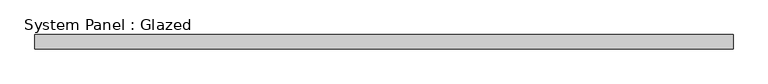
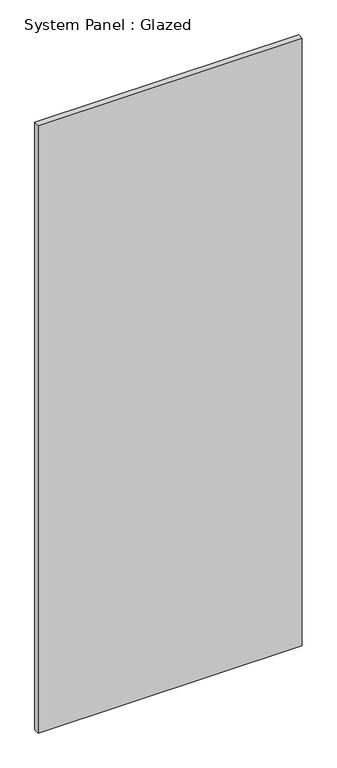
"""IFC4 building model written with IfcOpenShell, lengths in millimetres: plate geometry, System Panel : Glazed."""

import ifcopenshell
import ifcopenshell.guid

model = None  # the IFC model being written
_history = None  # IfcOwnerHistory: only IFC2X3 demands one
_inside = {}  # id of a spatial element -> (the spatial element, [elements in it])
_under = {}  # id of a project, library or spatial element -> (it, [spatial elements below it])
_declared = {}  # id of a project -> (the project, [libraries it declares])
_typed = {}  # id of a type object -> (the type object, [elements of that type])
_made_of = {}  # id of a material, layer set ... -> (it, [elements and type objects made of it])


def new_model(schema):
    """Start an empty IFC model of exactly this schema.

    Asked for "IFC4X3", IfcOpenShell would pick the latest addendum, in which some entities
    have other attributes; the version numbers below select the first issue.
    IFC2X3 requires an IfcOwnerHistory on every rooted entity: one is made here for all.
    """
    global model, _history
    if schema == "IFC4X3":
        model = ifcopenshell.file(schema_version=(4, 3, 0, 0))
    else:
        model = ifcopenshell.file(schema=schema)
    _inside.clear()
    _under.clear()
    _declared.clear()
    _typed.clear()
    _made_of.clear()
    _history = None
    if model.schema == "IFC2X3":
        org = make("IfcOrganization", Name="unknown")
        user = make(
            "IfcPersonAndOrganization",
            ThePerson=make("IfcPerson", FamilyName="unknown"),
            TheOrganization=org,
        )
        app = make(
            "IfcApplication",
            ApplicationDeveloper=org,
            Version="unknown",
            ApplicationFullName="unknown",
            ApplicationIdentifier="unknown",
        )
        _history = make(
            "IfcOwnerHistory",
            OwningUser=user,
            OwningApplication=app,
            ChangeAction="ADDED",
            CreationDate=0,
        )
    return model


def make(cls, **values):
    """One entity of the class cls with the attributes given. An attribute that is None is left unset."""
    return model.create_entity(
        cls, **{name: value for name, value in values.items() if value is not None}
    )


def rooted(cls, **values):
    """An entity with a GlobalId (a new one), such as an element, a storey or a relation."""
    return make(cls, GlobalId=ifcopenshell.guid.new(), OwnerHistory=_history, **values)


def si_unit(unit_type, name, prefix=None):
    """IfcSIUnit, for example si_unit("LENGTHUNIT", "METRE", prefix="MILLI")."""
    return make("IfcSIUnit", UnitType=unit_type, Prefix=prefix, Name=name)


def assignment(units):
    """IfcUnitAssignment: the units of a project."""
    return None if units is None else make("IfcUnitAssignment", Units=units)


def point(xyz):
    """IfcCartesianPoint."""
    return None if xyz is None else make("IfcCartesianPoint", Coordinates=xyz)


def direction(xyz):
    """IfcDirection."""
    return None if xyz is None else make("IfcDirection", DirectionRatios=xyz)


def frame(location, z_axis=None, x_axis=None):
    """IfcAxis2Placement3D, a coordinate frame: its origin and axes. An axis left out is left unset."""
    return make(
        "IfcAxis2Placement3D",
        Location=point(location),
        Axis=direction(z_axis),
        RefDirection=direction(x_axis),
    )


def origin():
    """The frame at (0, 0, 0) with its axes left unset."""
    return frame((0.0, 0.0, 0.0))


def origin_with_axes():
    """The frame at (0, 0, 0) with the z axis (0, 0, 1) and the x axis (1, 0, 0) written out."""
    return frame((0.0, 0.0, 0.0), z_axis=(0.0, 0.0, 1.0), x_axis=(1.0, 0.0, 0.0))


def place(relative_to, where):
    """IfcLocalPlacement: puts the frame where relative to a parent placement (None: the world)."""
    return make(
        "IfcLocalPlacement", PlacementRelTo=relative_to, RelativePlacement=where
    )


def context(
    kind, dimensions, precision=None, world=None, true_north=None, identifier=None
):
    """IfcGeometricRepresentationContext, for example the 3D "Model" context."""
    return make(
        "IfcGeometricRepresentationContext",
        ContextIdentifier=identifier,
        ContextType=kind,
        CoordinateSpaceDimension=dimensions,
        Precision=precision,
        WorldCoordinateSystem=world,
        TrueNorth=true_north,
    )


def project(units=None, contexts=None):
    """IfcProject with its units and contexts."""
    return rooted(
        "IfcProject",
        Name="project",
        RepresentationContexts=contexts,
        UnitsInContext=assignment(units),
    )


def spatial(cls, under=None, at=None, **own):
    """A site, building, storey or space (cls), placed at a placement, below another one or the project."""
    s = rooted(cls, ObjectPlacement=at, **own)
    if under is not None:
        _under.setdefault(under.id(), (under, []))[1].append(s)
    return s


def polyline(points):
    """IfcPolyline through the points."""
    return make("IfcPolyline", Points=[point(p) for p in points])


def outline(outer, holes=None, kind="AREA"):
    """IfcArbitraryClosedProfileDef: a profile drawn as a closed curve; with holes, ...WithVoids."""
    if holes is None:
        return make("IfcArbitraryClosedProfileDef", ProfileType=kind, OuterCurve=outer)
    return make(
        "IfcArbitraryProfileDefWithVoids",
        ProfileType=kind,
        OuterCurve=outer,
        InnerCurves=holes,
    )


def extrude(swept, where, along, depth):
    """IfcExtrudedAreaSolid: the profile swept, set in the frame where, extruded along a direction by depth."""
    return make(
        "IfcExtrudedAreaSolid",
        SweptArea=swept,
        Position=where,
        ExtrudedDirection=direction(along),
        Depth=depth,
    )


def shape(context_of_items, identifier, shape_type, items):
    """IfcShapeRepresentation: the items that make up one representation, for example the "Body"."""
    return make(
        "IfcShapeRepresentation",
        ContextOfItems=context_of_items,
        RepresentationIdentifier=identifier,
        RepresentationType=shape_type,
        Items=items,
    )


def source(mapping_origin, context_of_items, identifier, shape_type, items):
    """IfcRepresentationMap: a shape defined once, which mapped items show again and again."""
    return make(
        "IfcRepresentationMap",
        MappingOrigin=mapping_origin,
        MappedRepresentation=shape(context_of_items, identifier, shape_type, items),
    )


def transform(
    local_origin,
    x_axis=None,
    y_axis=None,
    z_axis=None,
    scale=None,
    scale2=None,
    scale3=None,
    uniform=True,
):
    """IfcCartesianTransformationOperator3D, or its non-uniform kind. x_axis, y_axis, z_axis: its Axis1, 2, 3."""
    if uniform:
        return make(
            "IfcCartesianTransformationOperator3D",
            Axis1=direction(x_axis),
            Axis2=direction(y_axis),
            LocalOrigin=point(local_origin),
            Scale=scale,
            Axis3=direction(z_axis),
        )
    return make(
        "IfcCartesianTransformationOperator3DnonUniform",
        Axis1=direction(x_axis),
        Axis2=direction(y_axis),
        LocalOrigin=point(local_origin),
        Scale=scale,
        Axis3=direction(z_axis),
        Scale2=scale2,
        Scale3=scale3,
    )


def mapped(mapping_source, mapping_target):
    """IfcMappedItem: shows the shape of a source again, moved by a transform."""
    return make(
        "IfcMappedItem", MappingSource=mapping_source, MappingTarget=mapping_target
    )


def made_of(thing, what):
    """Note that an element or type object is made of a material, layer set ...; save() writes the relation."""
    if what is not None:
        _made_of.setdefault(what.id(), (what, []))[1].append(thing)
    return thing


def element(
    cls,
    number,
    at=None,
    inside=None,
    cuts=None,
    type_object=None,
    material=None,
    context=None,
    identifier="Body",
    shape_type=None,
    held_by="IfcProductDefinitionShape",
    body=None,
    shapes=None,
    **own,
):
    """One element of the class cls, such as IfcWall. Its Tag is "e" and its number.

    at: its placement. inside: the storey or other place that contains it. cuts: it is an
    opening in that element (IfcRelVoidsElement). A single representation is given by context,
    identifier, shape_type and body (its items); several are given by shapes. held_by: the class
    of the entity that holds the representations. save() writes the other relations.
    """
    e = rooted(cls, Tag="e%d" % number, ObjectPlacement=at, **own)
    if body is not None:
        shapes = [shape(context, identifier, shape_type, body)]
    if shapes is not None:
        e.Representation = make(held_by, Representations=shapes)
    if inside is not None:
        _inside.setdefault(inside.id(), (inside, []))[1].append(e)
    if cuts is not None:
        rooted(
            "IfcRelVoidsElement", RelatingBuildingElement=cuts, RelatedOpeningElement=e
        )
    if type_object is not None:
        _typed.setdefault(type_object.id(), (type_object, []))[1].append(e)
    return made_of(e, material)


def aggregate(whole, parts):
    """IfcRelAggregates: a whole, such as a stair, and the parts it consists of."""
    return rooted("IfcRelAggregates", RelatingObject=whole, RelatedObjects=parts)


def save(model, path):
    """Write the relations noted so far, then the file.

    IfcRelAggregates (storeys below a building ...), IfcRelContainedInSpatialStructure (elements
    in a storey), IfcRelDefinesByType, IfcRelAssociatesMaterial and IfcRelDeclares: one each for
    every whole, place, type object, material and project.
    """
    for whole, parts in _under.values():
        aggregate(whole, parts)
    for where, things in _inside.values():
        rooted(
            "IfcRelContainedInSpatialStructure",
            RelatedElements=things,
            RelatingStructure=where,
        )
    for kind, things in _typed.values():
        rooted("IfcRelDefinesByType", RelatedObjects=things, RelatingType=kind)
    for what, things in _made_of.values():
        rooted("IfcRelAssociatesMaterial", RelatedObjects=things, RelatingMaterial=what)
    for by, libraries in _declared.values():
        rooted("IfcRelDeclares", RelatingContext=by, RelatedDefinitions=libraries)
    model.write(path)


def system_panel_glazed_a669fc9f(model_context):
    return source(origin(), model_context, "Body", "SweptSolid", [
        extrude(outline(polyline([(619.125, -44.45), (-619.125, -44.45), (-619.125, -19.05), (619.125, -19.05), (619.125, -44.45)])), origin_with_axes(), (0.0, 0.0, 1.0), 3009.9),
    ])


if __name__ == "__main__":
    model = new_model("IFC4")
    model_context = context("Model", 3, world=origin())
    ifc_project = project(units=[si_unit("LENGTHUNIT", "METRE", prefix="MILLI")], contexts=[model_context])
    site = spatial("IfcSite", under=ifc_project)
    building = spatial("IfcBuilding", under=site)
    placement = place(None, origin())
    system_panel_glazed_shape = system_panel_glazed_a669fc9f(model_context)
    element("IfcPlate", 1, ObjectType="System Panel : Glazed", at=placement, inside=building, context=model_context, shape_type="MappedRepresentation", body=[
        mapped(system_panel_glazed_shape, transform((0.0, 0.0, 0.0), x_axis=(1.0, 0.0, 0.0), y_axis=(0.0, 1.0, 0.0), z_axis=(0.0, 0.0, 1.0))),
    ])
    save(model, "model.ifc")
